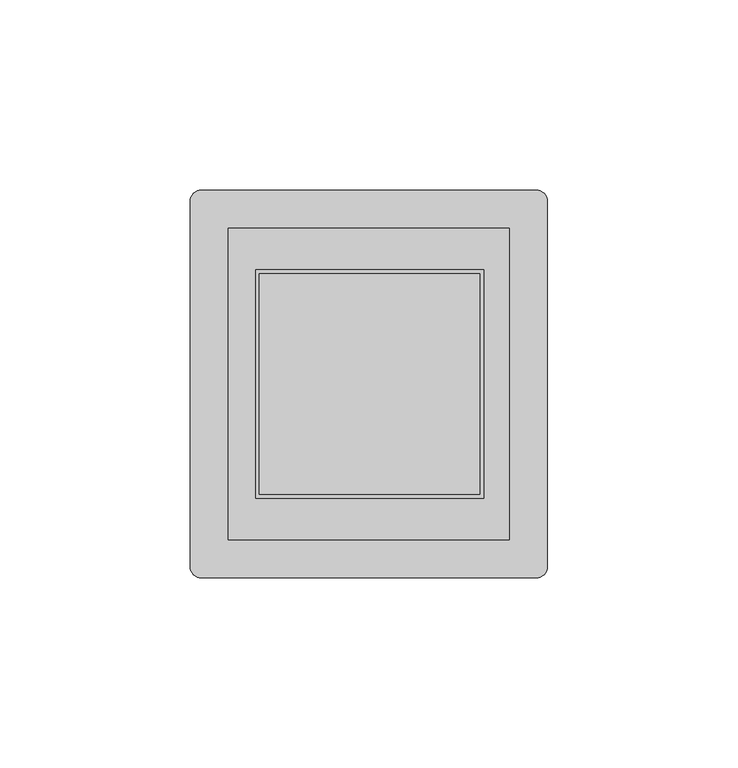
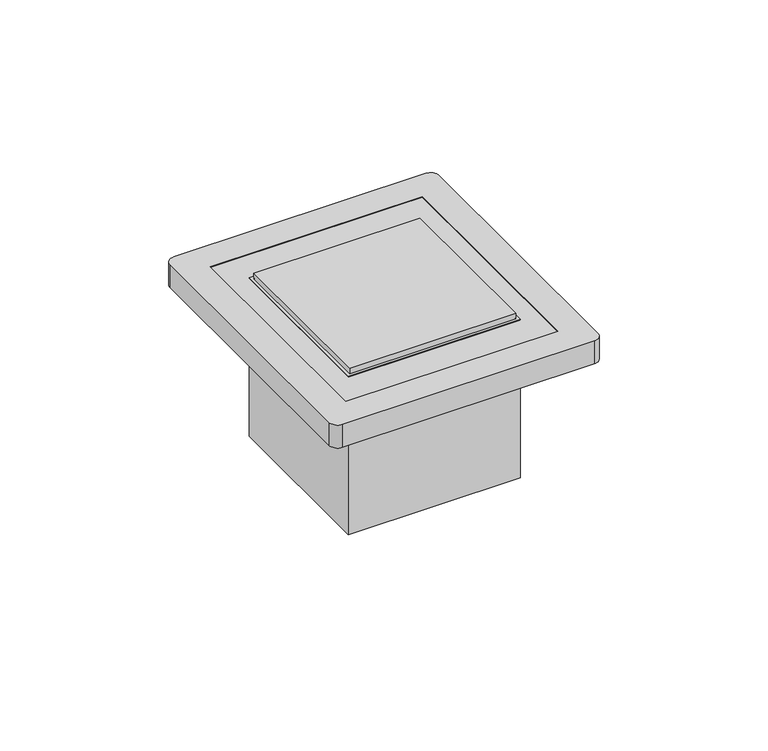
"""IFC4 building model written with IfcOpenShell, lengths in millimetres: switching device geometry, ONE WAY ONE GANG LIGHTING SWICH : ONE WAY ONE GANG LIGHTING SWICH."""

from ifc_helpers import new_model, si_unit, point, frame, frame_2d, origin, origin_with_axes, place, context, project, spatial, polyline, circle_curve, trimmed, segment, composite_curve, outline, extrude, source, transform, mapped, element, save


def switching_device_ab05ab5c(model_context):
    return source(origin(), model_context, "Body", "SweptSolid", [
        extrude(outline(composite_curve([segment(trimmed(circle_curve(frame_2d((-44.25, 48.0)), 3.0), [point((-47.25, 48.0))], [point((-44.25, 51.0))], False, "CARTESIAN"), True, "CONTINUOUS"), segment(polyline([(-44.25, 51.0), (43.75, 51.0)]), True, "CONTINUOUS"), segment(trimmed(circle_curve(frame_2d((43.75, 48.0)), 3.0), [point((43.75, 51.0))], [point((46.75, 48.0))], False, "CARTESIAN"), True, "CONTINUOUS"), segment(polyline([(46.75, 48.0), (46.75, -48.0)]), True, "CONTINUOUS"), segment(trimmed(circle_curve(frame_2d((43.75, -48.0)), 3.0), [point((46.75, -48.0))], [point((43.75, -51.0))], False, "CARTESIAN"), True, "CONTINUOUS"), segment(polyline([(43.75, -51.0), (-44.25, -51.0)]), True, "CONTINUOUS"), segment(trimmed(circle_curve(frame_2d((-44.25, -48.0)), 3.0), [point((-44.25, -51.0))], [point((-47.25, -48.0))], False, "CARTESIAN"), True, "CONTINUOUS"), segment(polyline([(-47.25, -48.0), (-47.25, 48.0)]), True, "CONTINUOUS")], self_intersect=False), holes=[polyline([(-37.25, -41.0), (36.75, -41.0), (36.75, 41.0), (-37.25, 41.0), (-37.25, -41.0)])]), origin_with_axes(), (0.0, 0.0, 1.0), 8.5),
        extrude(outline(polyline([(30.0, 30.0), (30.0, -30.0), (-30.0, -30.0), (-30.0, 30.0), (30.0, 30.0)]), holes=[polyline([(-29.0, 29.0), (-29.0, -29.0), (29.0, -29.0), (29.0, 29.0), (-29.0, 29.0)])]), frame((0.0, 0.0, -50.0), z_axis=(0.0, 0.0, 1.0), x_axis=(1.0, 0.0, 0.0)), (0.0, 0.0, 1.0), 58.5),
        extrude(outline(polyline([(29.0, -29.0), (-29.0, -29.0), (-29.0, 29.0), (29.0, 29.0), (29.0, -29.0)])), frame((0.0, 0.0, -50.0), z_axis=(0.0, 0.0, 1.0), x_axis=(1.0, 0.0, 0.0)), (0.0, 0.0, 1.0), 60.5),
        extrude(outline(polyline([(-37.25, -41.0), (-37.25, 41.0), (36.75, 41.0), (36.75, -41.0), (-37.25, -41.0)]), holes=[polyline([(30.0, 30.0), (-30.0, 30.0), (-30.0, -30.0), (30.0, -30.0), (30.0, 30.0)])]), origin_with_axes(), (0.0, 0.0, 1.0), 8.5),
    ])


if __name__ == "__main__":
    model = new_model("IFC4")
    model_context = context("Model", 3, world=origin())
    ifc_project = project(units=[si_unit("LENGTHUNIT", "METRE", prefix="MILLI")], contexts=[model_context])
    site = spatial("IfcSite", under=ifc_project)
    building = spatial("IfcBuilding", under=site)
    placement = place(None, origin())
    switching_device_shape = switching_device_ab05ab5c(model_context)
    element("IfcSwitchingDevice", 1, ObjectType="ONE WAY ONE GANG LIGHTING SWICH : ONE WAY ONE GANG LIGHTING SWICH", at=placement, inside=building, context=model_context, shape_type="MappedRepresentation", body=[
        mapped(switching_device_shape, transform((0.0, 0.0, 0.0), x_axis=(1.0, 0.0, 0.0), y_axis=(0.0, 1.0, 0.0), z_axis=(0.0, 0.0, 1.0))),
    ])
    save(model, "model.ifc")
